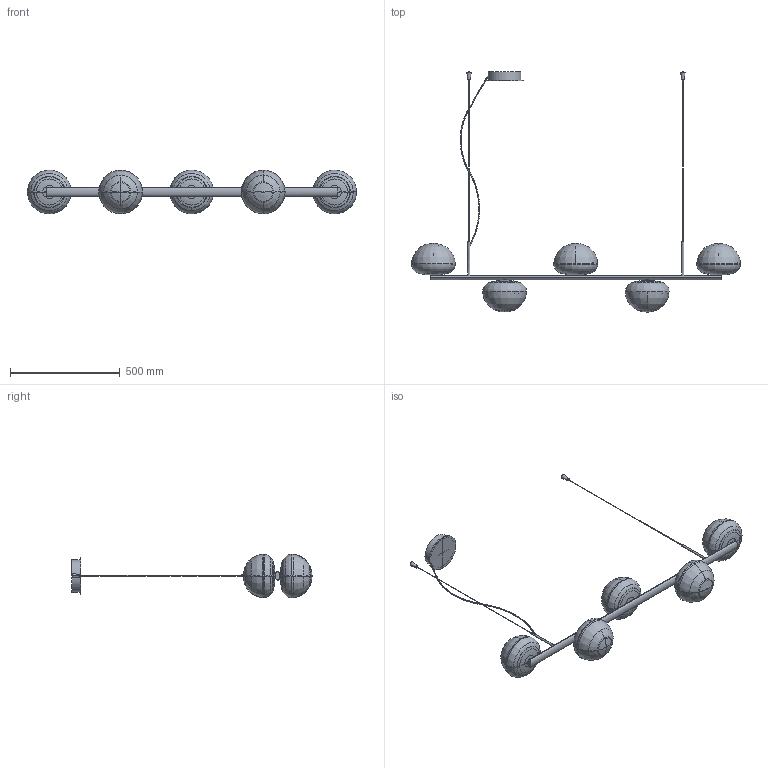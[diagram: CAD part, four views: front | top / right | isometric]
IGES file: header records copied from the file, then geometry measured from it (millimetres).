
Start section: SolidWorks IGES file using analytic representation for surfaces
Global section: file name: Y:\eforma\TECNICO\SOLIDWORKS\E-FORMA\09-LAMPADE\DEW\08 modelli 3D web\DEW01-00-DEW_sospensione.IGS; native system: SolidWorks 2022; preprocessor: SolidWorks 2022; author: eforma.tech; date: 250429.093938; units: millimetre
Bounding box: 1500.23 x 1094.9 x 199.52 mm (x, y, z)
Volume: 2956517.6 mm3; surface area: 1313478.8 mm2
Topology: 29 solids, 29 shells, 393 faces, 858 edges, 464 vertices
Faces by surface type: revolution 336, plane 49, bspline 8
